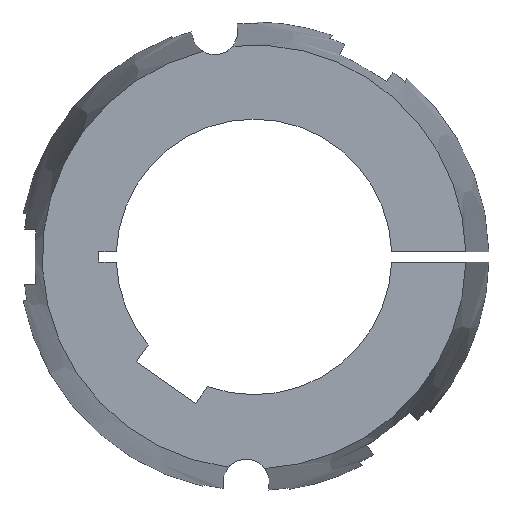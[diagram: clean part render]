
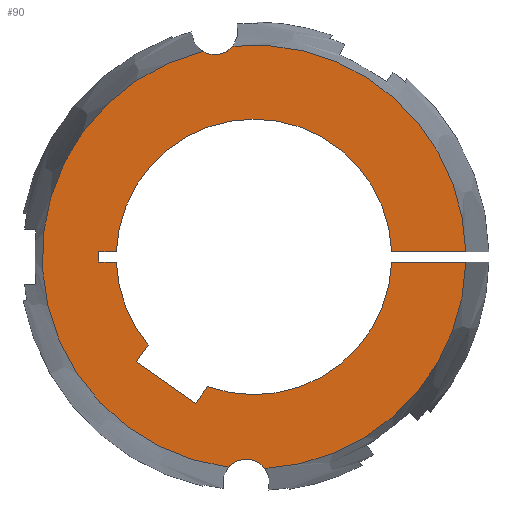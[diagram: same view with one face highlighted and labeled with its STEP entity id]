
A CAD part, left-side view. The second image highlights one B-rep face of the part: STEP entity #90.
In plain terms, the highlighted planar face has unit normal (-1, 0, 0).
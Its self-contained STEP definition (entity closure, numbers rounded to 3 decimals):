
#90 = ADVANCED_FACE( '', ( #140 ), #141, .F. );
#140 = FACE_OUTER_BOUND( '', #208, .T. );
#141 = PLANE( '', #209 );
#208 = EDGE_LOOP( '', ( #369, #370, #371, #372, #373, #374, #375, #376, #377, #378, #379, #380, #381, #382, #383, #384 ) );
#209 = AXIS2_PLACEMENT_3D( '', #385, #386, #387 );
#369 = ORIENTED_EDGE( '', *, *, #548, .F. );
#370 = ORIENTED_EDGE( '', *, *, #601, .F. );
#371 = ORIENTED_EDGE( '', *, *, #570, .T. );
#372 = ORIENTED_EDGE( '', *, *, #583, .T. );
#373 = ORIENTED_EDGE( '', *, *, #581, .T. );
#374 = ORIENTED_EDGE( '', *, *, #578, .T. );
#375 = ORIENTED_EDGE( '', *, *, #587, .T. );
#376 = ORIENTED_EDGE( '', *, *, #602, .T. );
#377 = ORIENTED_EDGE( '', *, *, #603, .T. );
#378 = ORIENTED_EDGE( '', *, *, #604, .T. );
#379 = ORIENTED_EDGE( '', *, *, #605, .T. );
#380 = ORIENTED_EDGE( '', *, *, #606, .T. );
#381 = ORIENTED_EDGE( '', *, *, #572, .T. );
#382 = ORIENTED_EDGE( '', *, *, #607, .F. );
#383 = ORIENTED_EDGE( '', *, *, #551, .F. );
#384 = ORIENTED_EDGE( '', *, *, #608, .F. );
#385 = CARTESIAN_POINT( '', ( -114., 0., 0. ) );
#386 = DIRECTION( '', ( 1., 0., 0. ) );
#387 = DIRECTION( '', ( 0., 1., 0. ) );
#548 = EDGE_CURVE( '', #649, #651, #652, .F. );
#551 = EDGE_CURVE( '', #655, #657, #658, .F. );
#570 = EDGE_CURVE( '', #693, #691, #694, .T. );
#572 = EDGE_CURVE( '', #696, #697, #698, .T. );
#578 = EDGE_CURVE( '', #709, #707, #710, .T. );
#581 = EDGE_CURVE( '', #714, #709, #715, .T. );
#583 = EDGE_CURVE( '', #691, #714, #717, .T. );
#587 = EDGE_CURVE( '', #707, #721, #723, .T. );
#601 = EDGE_CURVE( '', #693, #649, #745, .T. );
#602 = EDGE_CURVE( '', #721, #746, #747, .T. );
#603 = EDGE_CURVE( '', #746, #748, #749, .T. );
#604 = EDGE_CURVE( '', #748, #750, #751, .T. );
#605 = EDGE_CURVE( '', #750, #752, #753, .T. );
#606 = EDGE_CURVE( '', #752, #696, #754, .T. );
#607 = EDGE_CURVE( '', #657, #697, #755, .T. );
#608 = EDGE_CURVE( '', #651, #655, #756, .T. );
#649 = VERTEX_POINT( '', #815 );
#651 = VERTEX_POINT( '', #826 );
#652 = CIRCLE( '', #827, 8.125 );
#655 = VERTEX_POINT( '', #839 );
#657 = VERTEX_POINT( '', #852 );
#658 = CIRCLE( '', #853, 8.125 );
#691 = VERTEX_POINT( '', #920 );
#693 = VERTEX_POINT( '', #923 );
#694 = LINE( '', #924, #925 );
#696 = VERTEX_POINT( '', #933 );
#697 = VERTEX_POINT( '', #934 );
#698 = LINE( '', #935, #936 );
#707 = VERTEX_POINT( '', #954 );
#709 = VERTEX_POINT( '', #957 );
#710 = LINE( '', #958, #959 );
#714 = VERTEX_POINT( '', #965 );
#715 = LINE( '', #966, #967 );
#717 = CIRCLE( '', #970, 47.5 );
#721 = VERTEX_POINT( '', #975 );
#723 = LINE( '', #978, #979 );
#745 = CIRCLE( '', #1004, 73.028 );
#746 = VERTEX_POINT( '', #1005 );
#747 = CIRCLE( '', #1006, 47.5 );
#748 = VERTEX_POINT( '', #1007 );
#749 = LINE( '', #1008, #1009 );
#750 = VERTEX_POINT( '', #1010 );
#751 = LINE( '', #1011, #1012 );
#752 = VERTEX_POINT( '', #1013 );
#753 = LINE( '', #1014, #1015 );
#754 = CIRCLE( '', #1016, 47.5 );
#755 = CIRCLE( '', #1017, 73.028 );
#756 = CIRCLE( '', #1018, 73.028 );
#815 = CARTESIAN_POINT( '', ( -114., -3.751, -72.932 ) );
#826 = CARTESIAN_POINT( '', ( -114., 8.826, -72.493 ) );
#827 = AXIS2_PLACEMENT_3D( '', #1192, #1193, #1194 );
#839 = CARTESIAN_POINT( '', ( -114., 17.661, 70.861 ) );
#852 = CARTESIAN_POINT( '', ( -114., 7.262, 72.666 ) );
#853 = AXIS2_PLACEMENT_3D( '', #1195, #1196, #1197 );
#920 = CARTESIAN_POINT( '', ( -114., -47.468, -1.75 ) );
#923 = CARTESIAN_POINT( '', ( -114., -73.007, -1.75 ) );
#924 = CARTESIAN_POINT( '', ( -114., -81., -1.75 ) );
#925 = VECTOR( '', #1227, 1000. );
#933 = CARTESIAN_POINT( '', ( -114., -47.468, 1.75 ) );
#934 = CARTESIAN_POINT( '', ( -114., -73.007, 1.75 ) );
#935 = CARTESIAN_POINT( '', ( -114., 0., 1.75 ) );
#936 = VECTOR( '', #1228, 1000. );
#954 = CARTESIAN_POINT( '', ( -114., 40.582, -36.163 ) );
#957 = CARTESIAN_POINT( '', ( -114., 20.103, -50.503 ) );
#958 = CARTESIAN_POINT( '', ( -114., 20.103, -50.503 ) );
#959 = VECTOR( '', #1233, 1000. );
#965 = CARTESIAN_POINT( '', ( -114., 16.045, -44.708 ) );
#966 = CARTESIAN_POINT( '', ( -114., 16.045, -44.708 ) );
#967 = VECTOR( '', #1236, 1000. );
#970 = AXIS2_PLACEMENT_3D( '', #1238, #1239, #1240 );
#975 = CARTESIAN_POINT( '', ( -114., 36.524, -30.369 ) );
#978 = CARTESIAN_POINT( '', ( -114., 40.582, -36.163 ) );
#979 = VECTOR( '', #1246, 1000. );
#1004 = AXIS2_PLACEMENT_3D( '', #1280, #1281, #1282 );
#1005 = CARTESIAN_POINT( '', ( -114., 47.468, -1.75 ) );
#1006 = AXIS2_PLACEMENT_3D( '', #1283, #1284, #1285 );
#1007 = CARTESIAN_POINT( '', ( -114., 53.5, -1.75 ) );
#1008 = CARTESIAN_POINT( '', ( -114., 0., -1.75 ) );
#1009 = VECTOR( '', #1286, 1000. );
#1010 = CARTESIAN_POINT( '', ( -114., 53.5, 1.75 ) );
#1011 = CARTESIAN_POINT( '', ( -114., 53.5, -1.75 ) );
#1012 = VECTOR( '', #1287, 1000. );
#1013 = CARTESIAN_POINT( '', ( -114., 47.468, 1.75 ) );
#1014 = CARTESIAN_POINT( '', ( -114., 53.5, 1.75 ) );
#1015 = VECTOR( '', #1288, 1000. );
#1016 = AXIS2_PLACEMENT_3D( '', #1289, #1290, #1291 );
#1017 = AXIS2_PLACEMENT_3D( '', #1292, #1293, #1294 );
#1018 = AXIS2_PLACEMENT_3D( '', #1295, #1296, #1297 );
#1192 = CARTESIAN_POINT( '', ( -114., 2.717, -77.85 ) );
#1193 = DIRECTION( '', ( 1., 0., 0. ) );
#1194 = DIRECTION( '', ( 0., 1., 0. ) );
#1195 = CARTESIAN_POINT( '', ( -114., 13.519, 77.85 ) );
#1196 = DIRECTION( '', ( 1., 0., 0. ) );
#1197 = DIRECTION( '', ( 0., 1., 0. ) );
#1227 = DIRECTION( '', ( 0., 1., 0. ) );
#1228 = DIRECTION( '', ( 0., -1., 0. ) );
#1233 = DIRECTION( '', ( 0., 0.819, 0.574 ) );
#1236 = DIRECTION( '', ( 0., 0.574, -0.819 ) );
#1238 = CARTESIAN_POINT( '', ( -114., 0., 0. ) );
#1239 = DIRECTION( '', ( 1., 0., 0. ) );
#1240 = DIRECTION( '', ( 0., 0., -1. ) );
#1246 = DIRECTION( '', ( 0., -0.574, 0.819 ) );
#1280 = CARTESIAN_POINT( '', ( -114., 0., 0. ) );
#1281 = DIRECTION( '', ( 1., 0., 0. ) );
#1282 = DIRECTION( '', ( 0., 1., 0. ) );
#1283 = CARTESIAN_POINT( '', ( -114., 0., 0. ) );
#1284 = DIRECTION( '', ( 1., 0., 0. ) );
#1285 = DIRECTION( '', ( 0., 0., -1. ) );
#1286 = DIRECTION( '', ( 0., 1., 0. ) );
#1287 = DIRECTION( '', ( 0., 0., 1. ) );
#1288 = DIRECTION( '', ( 0., -1., 0. ) );
#1289 = CARTESIAN_POINT( '', ( -114., 0., 0. ) );
#1290 = DIRECTION( '', ( 1., 0., 0. ) );
#1291 = DIRECTION( '', ( 0., 0., -1. ) );
#1292 = CARTESIAN_POINT( '', ( -114., 0., 0. ) );
#1293 = DIRECTION( '', ( 1., 0., 0. ) );
#1294 = DIRECTION( '', ( 0., 1., 0. ) );
#1295 = CARTESIAN_POINT( '', ( -114., 0., 0. ) );
#1296 = DIRECTION( '', ( 1., 0., 0. ) );
#1297 = DIRECTION( '', ( 0., 1., 0. ) );
